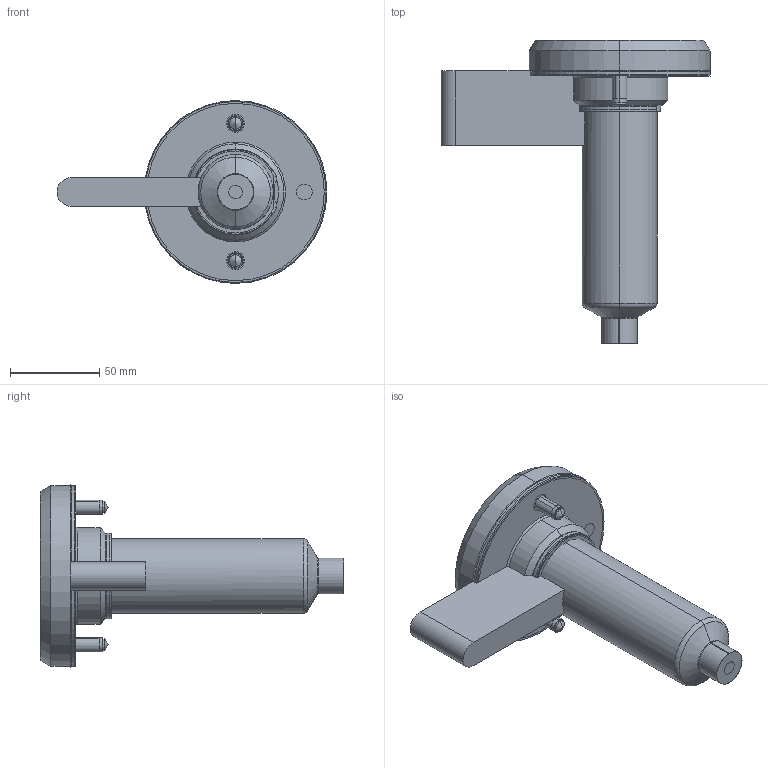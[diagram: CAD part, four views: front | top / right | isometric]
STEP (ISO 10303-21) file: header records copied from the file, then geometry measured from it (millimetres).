
FILE_DESCRIPTION (( 'STEP AP214' ), '1' );
FILE_NAME ('SOHSB16120-SOSRT1602.STEP', '2024-11-28T08:57:35', ( '' ), ( '' ), 'SwSTEP 2.0', 'SolidWorks 2022', '' );
FILE_SCHEMA (( 'AUTOMOTIVE_DESIGN' ));
Length unit declared in the file: millimetre
Products named in the file (9): EcoONE-HSB16-00002(A)_SOHSBLR16; socket head cap screw_iso_ISO 4762 M8 x 25 - 25N; EcoONE-HSB16-16003(A)_SOHSBNB16120; EcoONE-HSB16-16005_SOTC10350-J; EcoONE-HSB16-Open Gate Extended Sprue Tip_SOSRT1602; EcoONE-HSB16-16006_SONHC16; SOHSB16120-SOSRT1602; EcoONE-HSB16-Open Gate Cut-out Details_Ext Sprue Gate or Full Body Gate; EcoONE-HSB16-16004_SONH28112
Assembly tree (10 placements, depth 2):
  SOHSB16120-SOSRT1602
    EcoONE-HSB16-16003(A)_SOHSBNB16120
    EcoONE-HSB16-16004_SONH28112
    EcoONE-HSB16-16005_SOTC10350-J
    EcoONE-HSB16-16006_SONHC16  x2
    EcoONE-HSB16-00002(A)_SOHSBLR16
    socket head cap screw_iso_ISO 4762 M8 x 25 - 25N  x2
    EcoONE-HSB16-Open Gate Extended Sprue Tip_SOSRT1602
    EcoONE-HSB16-Open Gate Cut-out Details_Ext Sprue Gate or Full Body Gate
Bounding box: 151.2 x 170 x 102.4 mm (x, y, z)
Volume: 512557 mm3; surface area: 126431.1 mm2
Topology: 10 solids, 10 shells, 504 faces, 1266 edges, 794 vertices
Faces by surface type: cylinder 154, plane 137, bspline 98, cone 81, torus 26, sphere 8
Entity records: 28291 total; most frequent: CARTESIAN_POINT 17101, ORIENTED_EDGE 2308, DIRECTION 1946, EDGE_CURVE 1154, AXIS2_PLACEMENT_3D 783, VERTEX_POINT 731, EDGE_LOOP 499, ADVANCED_FACE 461
